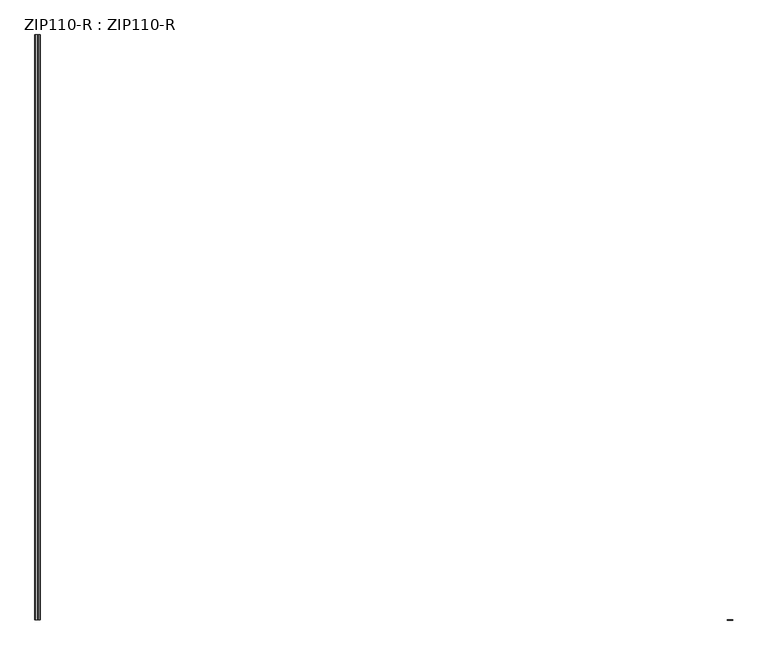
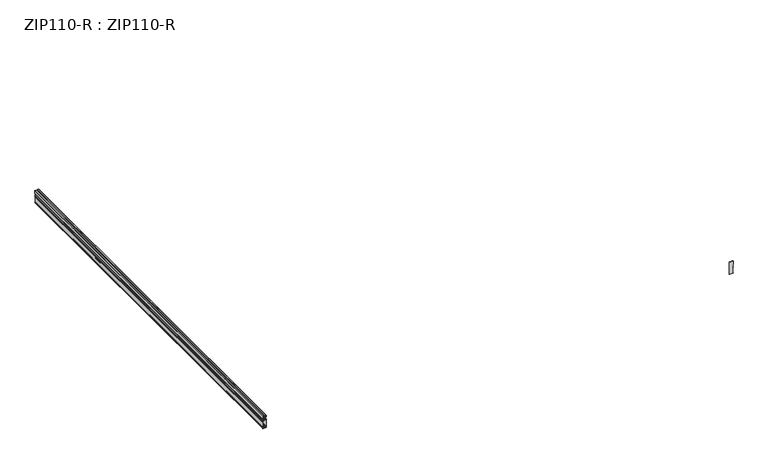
"""IFC4 building model written with IfcOpenShell, lengths in millimetres: proxy geometry, ZIP110-R : ZIP110-R."""

from ifc_helpers import new_model, si_unit, point, frame, frame_2d, origin, place, context, project, spatial, polyline, circle_curve, trimmed, segment, composite_curve, outline, extrude, source, transform, mapped, element, save
from ifc_brep_helpers import plane_surface, cylinder_surface, revolved_surface, advanced_brep


def zip110_r_zip110_r_a34fa557(model_context):
    return source(origin(), model_context, "Body", "SolidModel", [
        advanced_brep(
        [(-1980.5, 2.5, 110.0), (-1983.1683375, 2.5, 110.0), (-1984.5, 2.5, 110.0), (-1999.0, 2.5, 110.0), (-2000.0, 2.5, 109.0), (-2000.0, 2.5, 85.2133021), (-2000.0, 2.5, 81.4142136), (-1999.0, 2.5, 80.4142136), (-1999.0, 2.5, 64.25), (-2000.0, 2.5, 64.25), (-2000.0, 2.5, 62.9567252), (-1999.2, 2.5, 62.9567252), (-1999.2, 2.5, 60.138621), (-1999.2, 2.5, 57.0432748), (-2000.0, 2.5, 57.0432748), (-2000.0, 2.5, 55.75), (-1999.0, 2.5, 55.75), (-1999.0, 2.5, 3.0857864), (-2000.0, 2.5, 2.0857864), (-2000.0, 2.5, 1.0), (-1999.0, 2.5, 0.0), (-1969.0, 2.5, 0.0), (-1968.0, 2.5, 1.0), (-1968.0, 2.5, 2.0685346), (-1968.0, 2.5, 7.9507949), (-1968.0, 2.5, 77.4029385), (-1968.8263518, 2.5, 78.3877462), (-1974.0, 2.5, 79.3), (-1977.7081958, 2.5, 79.3), (-1977.7081958, 2.5, 78.1), (-1975.8326175, 2.5, 78.1), (-1973.5, 2.5, 77.6886966), (-1973.5, 2.5, 71.4), (-1990.4889527, 2.5, 71.4), (-1990.4889527, 2.5, 72.5), (-1992.9, 2.5, 72.5), (-1993.3030746, 2.5, 71.4555556), (-1989.2723286, 2.5, 69.9), (-1972.0, 2.5, 69.9), (-1972.0, 2.5, 76.8283293), (-1971.4131759, 2.5, 77.3207332), (-1969.5, 2.5, 76.9833887), (-1969.5, 2.5, 15.1289809), (-1971.6736482, 2.5, 14.7457081), (-1972.5, 2.5, 13.7609004), (-1972.5, 2.5, 11.919611), (-1972.1, 2.5, 11.1), (-1971.3, 2.5, 11.1), (-1971.3, 2.5, 12.8), (-1970.8, 2.5, 13.3), (-1969.5, 2.5, 13.3), (-1969.5, 2.5, 3.6555641), (-1971.7131759, 2.5, 3.2653215), (-1972.3, 2.5, 3.7577254), (-1972.3, 2.5, 5.2), (-1971.5658186, 2.5, 5.6417681), (-1971.5, 2.5, 6.7), (-1973.9101021, 2.5, 6.7), (-1975.860326, 2.5, 6.4606803), (-1976.8470631, 2.5, 6.5958375), (-1976.7905004, 2.5, 5.5974385), (-1975.178132, 2.5, 4.4938803), (-1976.1000964, 2.5, 2.5167213), (-1977.9818814, 2.5, 3.0425137), (-1978.7830573, 2.5, 2.4440847), (-1979.0685439, 2.5, 1.5), (-1997.0, 2.5, 1.5), (-1997.5, 2.5, 2.0), (-1997.5, 2.5, 5.2), (-1997.0, 2.5, 5.7), (-1986.6190958, 2.5, 5.7), (-1986.0648483, 2.5, 6.2542475), (-1987.0, 2.5, 6.9), (-1996.5, 2.5, 6.9), (-1997.5, 2.5, 7.9), (-1997.5, 2.5, 10.1), (-1996.5, 2.5, 11.1), (-1987.0, 2.5, 11.1), (-1986.2077069, 2.5, 11.4898593), (-1986.3071797, 2.5, 12.3), (-1997.0, 2.5, 12.3), (-1997.5, 2.5, 12.8), (-1997.5, 2.5, 58.0), (-1997.5, 2.5, 59.641696), (-1997.5, 2.5, 62.0), (-1997.5, 2.5, 70.6), (-1997.0, 2.5, 71.1), (-1995.9384776, 2.5, 71.1), (-1990.4788582, 2.5, 65.6403806), (-1989.5596194, 2.5, 66.5596194), (-1993.9535534, 2.5, 70.9535534), (-1994.0977166, 2.5, 71.7576425), (-1992.7954131, 2.5, 73.0270692), (-1990.2, 2.5, 72.8), (-1990.2, 2.5, 71.6), (-1989.2, 2.5, 71.6), (-1988.7, 2.5, 72.1), (-1988.7, 2.5, 84.75), (-1988.7, 2.5, 88.9474648), (-1988.7, 2.5, 93.25), (-1988.7, 2.5, 102.0), (-1988.2, 2.5, 102.5), (-1978.25, 2.5, 102.5), (-1974.0, 2.5, 102.5), (-1973.5, 2.5, 102.0), (-1973.5, 2.5, 96.3), (-1974.0, 2.5, 95.8), (-1977.4, 2.5, 95.8), (-1977.4, 2.5, 94.6), (-1969.0, 2.5, 94.6), (-1968.0, 2.5, 95.6), (-1968.0, 2.5, 109.0), (-1969.0, 2.5, 110.0), (-1980.5, 3355.0, 110.0), (-1969.0, 3355.0, 110.0), (-1968.0, 3355.0, 109.0), (-1968.0, 3355.0, 95.6), (-1969.0, 3355.0, 94.6), (-1977.4, 3355.0, 94.6), (-1977.4, 3355.0, 95.8), (-1974.0, 3355.0, 95.8), (-1973.5, 3355.0, 96.3), (-1973.5, 3355.0, 102.0), (-1974.0, 3355.0, 102.5), (-1978.25, 3355.0, 102.5), (-1988.2, 3355.0, 102.5), (-1988.7, 3355.0, 102.0), (-1988.7, 3355.0, 93.25), (-1988.7, 3355.0, 88.9474648), (-1988.7, 3355.0, 84.75), (-1988.7, 3355.0, 72.1), (-1989.2, 3355.0, 71.6), (-1990.2, 3355.0, 71.6), (-1990.2, 3355.0, 72.8), (-1992.7954131, 3355.0, 73.0270692), (-1994.0977166, 3355.0, 71.7576425), (-1993.9535534, 3355.0, 70.9535534), (-1989.5596194, 3355.0, 66.5596194), (-1990.4788582, 3355.0, 65.6403806), (-1995.9384776, 3355.0, 71.1), (-1997.0, 3355.0, 71.1), (-1997.5, 3355.0, 70.6), (-1997.5, 3355.0, 62.0), (-1997.5, 3355.0, 59.641696), (-1997.5, 3355.0, 58.0), (-1997.5, 3355.0, 12.8), (-1997.0, 3355.0, 12.3), (-1986.3071797, 3355.0, 12.3), (-1986.2077069, 3355.0, 11.4898593), (-1987.0, 3355.0, 11.1), (-1996.5, 3355.0, 11.1), (-1997.5, 3355.0, 10.1), (-1997.5, 3355.0, 7.9), (-1996.5, 3355.0, 6.9), (-1987.0, 3355.0, 6.9), (-1986.0648483, 3355.0, 6.2542475), (-1986.6190958, 3355.0, 5.7), (-1997.0, 3355.0, 5.7), (-1997.5, 3355.0, 5.2), (-1997.5, 3355.0, 2.0), (-1997.0, 3355.0, 1.5), (-1979.0685439, 3355.0, 1.5), (-1978.6865207, 3355.0, 2.3225806), (-1977.9818814, 3355.0, 3.0425137), (-1976.1000964, 3355.0, 2.5167213), (-1975.178132, 3355.0, 4.4938803), (-1976.7905004, 3355.0, 5.5974385), (-1976.8470631, 3355.0, 6.5958375), (-1975.860326, 3355.0, 6.4606803), (-1973.9101021, 3355.0, 6.7), (-1971.5, 3355.0, 6.7), (-1971.5658186, 3355.0, 5.6417681), (-1972.3, 3355.0, 5.2), (-1972.3, 3355.0, 3.7577254), (-1971.7131759, 3355.0, 3.2653215), (-1969.5, 3355.0, 3.6555641), (-1969.5, 3355.0, 13.3), (-1970.8, 3355.0, 13.3), (-1971.3, 3355.0, 12.8), (-1971.3, 3355.0, 11.1), (-1972.1, 3355.0, 11.1), (-1972.5, 3355.0, 11.919611), (-1972.5, 3355.0, 13.7609004), (-1971.6736482, 3355.0, 14.7457081), (-1969.5, 3355.0, 15.1289809), (-1969.5, 3355.0, 76.9833887), (-1971.4131759, 3355.0, 77.3207332), (-1972.0, 3355.0, 76.8283293), (-1972.0, 3355.0, 69.9), (-1989.2723286, 3355.0, 69.9), (-1993.3030746, 3355.0, 71.4555556), (-1992.9, 3355.0, 72.5), (-1990.4889527, 3355.0, 72.5), (-1990.4889527, 3355.0, 71.4), (-1973.5, 3355.0, 71.4), (-1973.5, 3355.0, 77.6886966), (-1975.8326175, 3355.0, 78.1), (-1977.7081958, 3355.0, 78.1), (-1977.7081958, 3355.0, 79.3), (-1974.0, 3355.0, 79.3), (-1968.8263518, 3355.0, 78.3877462), (-1968.0, 3355.0, 77.4029385), (-1968.0, 3355.0, 7.9507949), (-1968.0, 3355.0, 2.0685346), (-1968.0, 3355.0, 1.0), (-1969.0, 3355.0, 0.0), (-1999.0, 3355.0, 0.0), (-2000.0, 3355.0, 1.0), (-2000.0, 3355.0, 2.0857864), (-1999.0, 3355.0, 3.0857864), (-1999.0, 3355.0, 55.75), (-2000.0, 3355.0, 55.75), (-2000.0, 3355.0, 57.0432748), (-1999.2, 3355.0, 57.0432748), (-1999.2, 3355.0, 60.138621), (-1999.2, 3355.0, 62.9567252), (-2000.0, 3355.0, 62.9567252), (-2000.0, 3355.0, 64.25), (-1999.0, 3355.0, 64.25), (-1999.0, 3355.0, 80.4142136), (-2000.0, 3355.0, 81.4142136), (-2000.0, 3355.0, 85.2133021), (-2000.0, 3355.0, 109.0), (-1999.0, 3355.0, 110.0), (-1984.5, 3355.0, 110.0), (-1983.1683375, 3355.0, 110.0)],
        [
            (0, 1),
            (1, 2),
            (2, 3),
            (3, 4, circle_curve(frame((-1999.0, 2.5, 109.0), z_axis=(0.0, -1.0, 0.0), x_axis=(1.0, 0.0, 0.0)), 1.0)),
            (4, 5),
            (5, 6),
            (6, 7, circle_curve(frame((-1999.0, 2.5, 81.4142136), z_axis=(0.0, -1.0, 0.0), x_axis=(1.0, 0.0, 0.0)), 1.0)),
            (7, 8),
            (8, 9),
            (9, 10),
            (10, 11),
            (11, 12),
            (12, 13),
            (13, 14),
            (14, 15),
            (15, 16),
            (16, 17),
            (17, 18, circle_curve(frame((-1999.0, 2.5, 2.0857864), z_axis=(0.0, -1.0, 0.0), x_axis=(1.0, 0.0, 0.0)), 1.0)),
            (18, 19),
            (19, 20, circle_curve(frame((-1999.0, 2.5, 1.0), z_axis=(0.0, -1.0, 0.0), x_axis=(1.0, 0.0, 0.0)), 1.0)),
            (20, 21),
            (21, 22, circle_curve(frame((-1969.0, 2.5, 1.0), z_axis=(0.0, -1.0, 0.0), x_axis=(1.0, 0.0, 0.0)), 1.0)),
            (22, 23),
            (23, 24),
            (24, 25),
            (25, 26, circle_curve(frame((-1969.0, 2.5, 77.4029385), z_axis=(0.0, -1.0, 0.0), x_axis=(1.0, 0.0, 0.0)), 1.0)),
            (26, 27),
            (27, 28),
            (28, 29),
            (29, 30),
            (30, 31),
            (31, 32),
            (32, 33),
            (33, 34),
            (34, 35),
            (35, 36, circle_curve(frame((-1992.9, 2.5, 71.9), z_axis=(0.0, -1.0, 0.0), x_axis=(1.0, 0.0, 0.0)), 0.6)),
            (36, 37, circle_curve(frame((-1989.2723286, 2.5, 75.9), z_axis=(0.0, -1.0, 0.0), x_axis=(1.0, 0.0, 0.0)), 6.0)),
            (37, 38),
            (38, 39),
            (39, 40, circle_curve(frame((-1971.5, 2.5, 76.8283293), z_axis=(0.0, 1.0, 0.0), x_axis=(1.0, 0.0, 0.0)), 0.5)),
            (40, 41),
            (41, 42),
            (42, 43),
            (43, 44, circle_curve(frame((-1971.5, 2.5, 13.7609004), z_axis=(0.0, -1.0, 0.0), x_axis=(1.0, 0.0, 0.0)), 1.0)),
            (44, 45),
            (45, 46, circle_curve(frame((-1971.8859152, 2.5, 11.711894), z_axis=(0.0, -1.0, 0.0), x_axis=(1.0, 0.0, 0.0)), 0.6482642)),
            (46, 47),
            (47, 48),
            (48, 49, circle_curve(frame((-1970.8, 2.5, 12.8), z_axis=(0.0, 1.0, 0.0), x_axis=(1.0, 0.0, 0.0)), 0.5)),
            (49, 50),
            (50, 51),
            (51, 52),
            (52, 53, circle_curve(frame((-1971.8, 2.5, 3.7577254), z_axis=(0.0, 1.0, 0.0), x_axis=(1.0, 0.0, 0.0)), 0.5)),
            (53, 54),
            (54, 55, circle_curve(frame((-1971.8, 2.5, 5.2), z_axis=(0.0, 1.0, 0.0), x_axis=(1.0, 0.0, 0.0)), 0.5)),
            (55, 56, circle_curve(frame((-1971.8975235, 2.5, 6.1935619), z_axis=(0.0, -1.0, 0.0), x_axis=(1.0, 0.0, 0.0)), 0.6438202)),
            (56, 57),
            (57, 58),
            (58, 59, circle_curve(frame((-1976.7, 2.5, 4.0), z_axis=(0.0, -1.0, 0.0), x_axis=(1.0, 0.0, 0.0)), 2.6)),
            (59, 60, circle_curve(frame((-1976.8187818, 2.5, 6.096638), z_axis=(0.0, -1.0, 0.0), x_axis=(1.0, 0.0, 0.0)), 0.5)),
            (60, 61, circle_curve(frame((-1976.7, 2.5, 4.0), z_axis=(0.0, 1.0, 0.0), x_axis=(1.0, 0.0, 0.0)), 1.6)),
            (61, 62, circle_curve(frame((-1975.9692715, 2.5, 3.6592557), z_axis=(0.0, 1.0, 0.0), x_axis=(1.0, 0.0, 0.0)), 1.15)),
            (62, 63, circle_curve(frame((-1976.7, 2.5, 4.0), z_axis=(0.0, 1.0, 0.0), x_axis=(1.0, 0.0, 0.0)), 1.6)),
            (63, 64, circle_curve(frame((-1978.3824693, 2.5, 2.7432992), z_axis=(0.0, -1.0, 0.0), x_axis=(1.0, 0.0, 0.0)), 0.5)),
            (64, 65, circle_curve(frame((-1979.0685439, 2.5, 2.0), z_axis=(0.0, 1.0, 0.0), x_axis=(1.0, 0.0, 0.0)), 0.5)),
            (65, 66),
            (66, 67, circle_curve(frame((-1997.0, 2.5, 2.0), z_axis=(0.0, 1.0, 0.0), x_axis=(1.0, 0.0, 0.0)), 0.5)),
            (67, 68),
            (68, 69, circle_curve(frame((-1997.0, 2.5, 5.2), z_axis=(0.0, 1.0, 0.0), x_axis=(1.0, 0.0, 0.0)), 0.5)),
            (69, 70),
            (70, 71, circle_curve(frame((-1986.469736, 2.5, 6.1048877), z_axis=(0.0, -1.0, 0.0), x_axis=(1.0, 0.0, 0.0)), 0.4315581)),
            (71, 72, circle_curve(frame((-1987.0, 2.5, 5.9), z_axis=(0.0, -1.0, 0.0), x_axis=(1.0, 0.0, 0.0)), 1.0)),
            (72, 73),
            (73, 74, circle_curve(frame((-1996.5, 2.5, 7.9), z_axis=(0.0, 1.0, 0.0), x_axis=(1.0, 0.0, 0.0)), 1.0)),
            (74, 75),
            (75, 76, circle_curve(frame((-1996.5, 2.5, 10.1), z_axis=(0.0, 1.0, 0.0), x_axis=(1.0, 0.0, 0.0)), 1.0)),
            (76, 77),
            (77, 78, circle_curve(frame((-1987.0, 2.5, 12.1), z_axis=(0.0, -1.0, 0.0), x_axis=(1.0, 0.0, 0.0)), 1.0)),
            (78, 79, circle_curve(frame((-1986.4663238, 2.5, 11.8692824), z_axis=(0.0, -1.0, 0.0), x_axis=(1.0, 0.0, 0.0)), 0.4591781)),
            (79, 80),
            (80, 81, circle_curve(frame((-1997.0, 2.5, 12.8), z_axis=(0.0, 1.0, 0.0), x_axis=(1.0, 0.0, 0.0)), 0.5)),
            (81, 82),
            (82, 83),
            (83, 84),
            (84, 85),
            (85, 86, circle_curve(frame((-1997.0, 2.5, 70.6), z_axis=(0.0, 1.0, 0.0), x_axis=(1.0, 0.0, 0.0)), 0.5)),
            (86, 87),
            (87, 88),
            (88, 89, circle_curve(frame((-1990.0192388, 2.5, 66.1), z_axis=(0.0, -1.0, 0.0), x_axis=(1.0, 0.0, 0.0)), 0.65)),
            (89, 90),
            (90, 91, circle_curve(frame((-1993.4479343, 2.5, 71.4591725), z_axis=(0.0, 1.0, 0.0), x_axis=(1.0, 0.0, 0.0)), 0.7150534)),
            (91, 92, circle_curve(frame((-1992.9, 2.5, 71.8316356), z_axis=(0.0, 1.0, 0.0), x_axis=(1.0, 0.0, 0.0)), 1.2)),
            (92, 93),
            (93, 94),
            (94, 95),
            (95, 96, circle_curve(frame((-1989.2, 2.5, 72.1), z_axis=(0.0, -1.0, 0.0), x_axis=(1.0, 0.0, 0.0)), 0.5)),
            (96, 97),
            (97, 98),
            (98, 99),
            (99, 100),
            (100, 101, circle_curve(frame((-1988.2, 2.5, 102.0), z_axis=(0.0, 1.0, 0.0), x_axis=(1.0, 0.0, 0.0)), 0.5)),
            (101, 102),
            (102, 103),
            (103, 104, circle_curve(frame((-1974.0, 2.5, 102.0), z_axis=(0.0, 1.0, 0.0), x_axis=(1.0, 0.0, 0.0)), 0.5)),
            (104, 105),
            (105, 106, circle_curve(frame((-1974.0, 2.5, 96.3), z_axis=(0.0, 1.0, 0.0), x_axis=(1.0, 0.0, 0.0)), 0.5)),
            (106, 107),
            (107, 108, circle_curve(frame((-1976.826947, 2.5, 95.2), z_axis=(0.0, -1.0, 0.0), x_axis=(1.0, 0.0, 0.0)), 0.8296925)),
            (108, 109),
            (109, 110, circle_curve(frame((-1969.0, 2.5, 95.6), z_axis=(0.0, -1.0, 0.0), x_axis=(1.0, 0.0, 0.0)), 1.0)),
            (110, 111),
            (111, 112, circle_curve(frame((-1969.0, 2.5, 109.0), z_axis=(0.0, -1.0, 0.0), x_axis=(1.0, 0.0, 0.0)), 1.0)),
            (112, 0),
            (113, 114),
            (114, 115, circle_curve(frame((-1969.0, 3355.0, 109.0), z_axis=(0.0, 1.0, 0.0), x_axis=(1.0, 0.0, 0.0)), 1.0)),
            (115, 116),
            (116, 117, circle_curve(frame((-1969.0, 3355.0, 95.6), z_axis=(0.0, 1.0, 0.0), x_axis=(1.0, 0.0, 0.0)), 1.0)),
            (117, 118),
            (118, 119, circle_curve(frame((-1976.826947, 3355.0, 95.2), z_axis=(0.0, 1.0, 0.0), x_axis=(1.0, 0.0, 0.0)), 0.8296925)),
            (119, 120),
            (120, 121, circle_curve(frame((-1974.0, 3355.0, 96.3), z_axis=(0.0, -1.0, 0.0), x_axis=(1.0, 0.0, 0.0)), 0.5)),
            (121, 122),
            (122, 123, circle_curve(frame((-1974.0, 3355.0, 102.0), z_axis=(0.0, -1.0, 0.0), x_axis=(1.0, 0.0, 0.0)), 0.5)),
            (123, 124),
            (124, 125),
            (125, 126, circle_curve(frame((-1988.2, 3355.0, 102.0), z_axis=(0.0, -1.0, 0.0), x_axis=(1.0, 0.0, 0.0)), 0.5)),
            (126, 127),
            (127, 128),
            (128, 129),
            (129, 130),
            (130, 131, circle_curve(frame((-1989.2, 3355.0, 72.1), z_axis=(0.0, 1.0, 0.0), x_axis=(1.0, 0.0, 0.0)), 0.5)),
            (131, 132),
            (132, 133),
            (133, 134),
            (134, 135, circle_curve(frame((-1992.9, 3355.0, 71.8316356), z_axis=(0.0, -1.0, 0.0), x_axis=(1.0, 0.0, 0.0)), 1.2)),
            (135, 136, circle_curve(frame((-1993.4479343, 3355.0, 71.4591725), z_axis=(0.0, -1.0, 0.0), x_axis=(1.0, 0.0, 0.0)), 0.7150534)),
            (136, 137),
            (137, 138, circle_curve(frame((-1990.0192388, 3355.0, 66.1), z_axis=(0.0, 1.0, 0.0), x_axis=(1.0, 0.0, 0.0)), 0.65)),
            (138, 139),
            (139, 140),
            (140, 141, circle_curve(frame((-1997.0, 3355.0, 70.6), z_axis=(0.0, -1.0, 0.0), x_axis=(1.0, 0.0, 0.0)), 0.5)),
            (141, 142),
            (142, 143),
            (143, 144),
            (144, 145),
            (145, 146, circle_curve(frame((-1997.0, 3355.0, 12.8), z_axis=(0.0, -1.0, 0.0), x_axis=(1.0, 0.0, 0.0)), 0.5)),
            (146, 147),
            (147, 148, circle_curve(frame((-1986.4663238, 3355.0, 11.8692824), z_axis=(0.0, 1.0, 0.0), x_axis=(1.0, 0.0, 0.0)), 0.4591781)),
            (148, 149, circle_curve(frame((-1987.0, 3355.0, 12.1), z_axis=(0.0, 1.0, 0.0), x_axis=(1.0, 0.0, 0.0)), 1.0)),
            (149, 150),
            (150, 151, circle_curve(frame((-1996.5, 3355.0, 10.1), z_axis=(0.0, -1.0, 0.0), x_axis=(1.0, 0.0, 0.0)), 1.0)),
            (151, 152),
            (152, 153, circle_curve(frame((-1996.5, 3355.0, 7.9), z_axis=(0.0, -1.0, 0.0), x_axis=(1.0, 0.0, 0.0)), 1.0)),
            (153, 154),
            (154, 155, circle_curve(frame((-1987.0, 3355.0, 5.9), z_axis=(0.0, 1.0, 0.0), x_axis=(1.0, 0.0, 0.0)), 1.0)),
            (155, 156, circle_curve(frame((-1986.469736, 3355.0, 6.1048877), z_axis=(0.0, 1.0, 0.0), x_axis=(1.0, 0.0, 0.0)), 0.4315581)),
            (156, 157),
            (157, 158, circle_curve(frame((-1997.0, 3355.0, 5.2), z_axis=(0.0, -1.0, 0.0), x_axis=(1.0, 0.0, 0.0)), 0.5)),
            (158, 159),
            (159, 160, circle_curve(frame((-1997.0, 3355.0, 2.0), z_axis=(0.0, -1.0, 0.0), x_axis=(1.0, 0.0, 0.0)), 0.5)),
            (160, 161),
            (161, 162, circle_curve(frame((-1979.0685439, 3355.0, 2.0), z_axis=(0.0, -1.0, 0.0), x_axis=(1.0, 0.0, 0.0)), 0.5)),
            (162, 163, circle_curve(frame((-1978.3824693, 3355.0, 2.7432992), z_axis=(0.0, 1.0, 0.0), x_axis=(1.0, 0.0, 0.0)), 0.5)),
            (163, 164, circle_curve(frame((-1976.7, 3355.0, 4.0), z_axis=(0.0, -1.0, 0.0), x_axis=(1.0, 0.0, 0.0)), 1.6)),
            (164, 165, circle_curve(frame((-1975.9692715, 3355.0, 3.6592557), z_axis=(0.0, -1.0, 0.0), x_axis=(1.0, 0.0, 0.0)), 1.15)),
            (165, 166, circle_curve(frame((-1976.7, 3355.0, 4.0), z_axis=(0.0, -1.0, 0.0), x_axis=(1.0, 0.0, 0.0)), 1.6)),
            (166, 167, circle_curve(frame((-1976.8187818, 3355.0, 6.096638), z_axis=(0.0, 1.0, 0.0), x_axis=(1.0, 0.0, 0.0)), 0.5)),
            (167, 168, circle_curve(frame((-1976.7, 3355.0, 4.0), z_axis=(0.0, 1.0, 0.0), x_axis=(1.0, 0.0, 0.0)), 2.6)),
            (168, 169),
            (169, 170),
            (170, 171, circle_curve(frame((-1971.8975235, 3355.0, 6.1935619), z_axis=(0.0, 1.0, 0.0), x_axis=(1.0, 0.0, 0.0)), 0.6438202)),
            (171, 172, circle_curve(frame((-1971.8, 3355.0, 5.2), z_axis=(0.0, -1.0, 0.0), x_axis=(1.0, 0.0, 0.0)), 0.5)),
            (172, 173),
            (173, 174, circle_curve(frame((-1971.8, 3355.0, 3.7577254), z_axis=(0.0, -1.0, 0.0), x_axis=(1.0, 0.0, 0.0)), 0.5)),
            (174, 175),
            (175, 176),
            (176, 177),
            (177, 178, circle_curve(frame((-1970.8, 3355.0, 12.8), z_axis=(0.0, -1.0, 0.0), x_axis=(1.0, 0.0, 0.0)), 0.5)),
            (178, 179),
            (179, 180),
            (180, 181, circle_curve(frame((-1971.8859152, 3355.0, 11.711894), z_axis=(0.0, 1.0, 0.0), x_axis=(1.0, 0.0, 0.0)), 0.6482642)),
            (181, 182),
            (182, 183, circle_curve(frame((-1971.5, 3355.0, 13.7609004), z_axis=(0.0, 1.0, 0.0), x_axis=(1.0, 0.0, 0.0)), 1.0)),
            (183, 184),
            (184, 185),
            (185, 186),
            (186, 187, circle_curve(frame((-1971.5, 3355.0, 76.8283293), z_axis=(0.0, -1.0, 0.0), x_axis=(1.0, 0.0, 0.0)), 0.5)),
            (187, 188),
            (188, 189),
            (189, 190, circle_curve(frame((-1989.2723286, 3355.0, 75.9), z_axis=(0.0, 1.0, 0.0), x_axis=(1.0, 0.0, 0.0)), 6.0)),
            (190, 191, circle_curve(frame((-1992.9, 3355.0, 71.9), z_axis=(0.0, 1.0, 0.0), x_axis=(1.0, 0.0, 0.0)), 0.6)),
            (191, 192),
            (192, 193),
            (193, 194),
            (194, 195),
            (195, 196),
            (196, 197),
            (197, 198),
            (198, 199),
            (199, 200),
            (200, 201, circle_curve(frame((-1969.0, 3355.0, 77.4029385), z_axis=(0.0, 1.0, 0.0), x_axis=(1.0, 0.0, 0.0)), 1.0)),
            (201, 202),
            (202, 203),
            (203, 204),
            (204, 205, circle_curve(frame((-1969.0, 3355.0, 1.0), z_axis=(0.0, 1.0, 0.0), x_axis=(1.0, 0.0, 0.0)), 1.0)),
            (205, 206),
            (206, 207, circle_curve(frame((-1999.0, 3355.0, 1.0), z_axis=(0.0, 1.0, 0.0), x_axis=(1.0, 0.0, 0.0)), 1.0)),
            (207, 208),
            (208, 209, circle_curve(frame((-1999.0, 3355.0, 2.0857864), z_axis=(0.0, 1.0, 0.0), x_axis=(1.0, 0.0, 0.0)), 1.0)),
            (209, 210),
            (210, 211),
            (211, 212),
            (212, 213),
            (213, 214),
            (214, 215),
            (215, 216),
            (216, 217),
            (217, 218),
            (218, 219),
            (219, 220, circle_curve(frame((-1999.0, 3355.0, 81.4142136), z_axis=(0.0, 1.0, 0.0), x_axis=(1.0, 0.0, 0.0)), 1.0)),
            (220, 221),
            (221, 222),
            (222, 223, circle_curve(frame((-1999.0, 3355.0, 109.0), z_axis=(0.0, 1.0, 0.0), x_axis=(1.0, 0.0, 0.0)), 1.0)),
            (223, 224),
            (224, 225),
            (225, 113),
            (0, 113),
            (225, 1),
            (224, 2),
            (223, 3),
            (222, 4),
            (221, 5),
            (220, 6),
            (219, 7),
            (218, 8),
            (217, 9),
            (216, 10),
            (215, 11),
            (214, 12),
            (213, 13),
            (212, 14),
            (211, 15),
            (210, 16),
            (209, 17),
            (208, 18),
            (207, 19),
            (206, 20),
            (205, 21),
            (204, 22),
            (203, 23),
            (202, 24),
            (201, 25),
            (200, 26),
            (199, 27),
            (198, 28),
            (197, 29),
            (196, 30),
            (195, 31),
            (194, 32),
            (193, 33),
            (192, 34),
            (191, 35),
            (190, 36),
            (189, 37),
            (188, 38),
            (187, 39),
            (186, 40),
            (185, 41),
            (184, 42),
            (183, 43),
            (182, 44),
            (181, 45),
            (180, 46),
            (179, 47),
            (178, 48),
            (177, 49),
            (176, 50),
            (175, 51),
            (174, 52),
            (173, 53),
            (172, 54),
            (171, 55),
            (170, 56),
            (169, 57),
            (168, 58),
            (167, 59),
            (166, 60),
            (165, 61),
            (164, 62),
            (163, 63),
            (162, 64),
            (161, 65),
            (160, 66),
            (159, 67),
            (158, 68),
            (157, 69),
            (156, 70),
            (155, 71),
            (154, 72),
            (153, 73),
            (152, 74),
            (151, 75),
            (150, 76),
            (149, 77),
            (148, 78),
            (147, 79),
            (146, 80),
            (145, 81),
            (144, 82),
            (143, 83),
            (142, 84),
            (141, 85),
            (140, 86),
            (139, 87),
            (138, 88),
            (137, 89),
            (136, 90),
            (135, 91),
            (134, 92),
            (133, 93),
            (132, 94),
            (131, 95),
            (130, 96),
            (129, 97),
            (128, 98),
            (127, 99),
            (126, 100),
            (125, 101),
            (124, 102),
            (123, 103),
            (122, 104),
            (121, 105),
            (120, 106),
            (119, 107),
            (118, 108),
            (117, 109),
            (116, 110),
            (115, 111),
            (114, 112),
        ],
        [
            plane_surface(frame((-1981.836675, 2.5, 110.0), z_axis=(0.0, -1.0, 0.0), x_axis=(-1.0, 0.0, 0.0))),
            plane_surface(frame((-1981.836675, 3355.0, 110.0), z_axis=(0.0, 1.0, 0.0), x_axis=(1.0, 0.0, 0.0))),
            plane_surface(frame((-1980.5, 2.5, 110.0), z_axis=(0.0, 0.0, 1.0), x_axis=(0.0, 1.0, 0.0))),
            plane_surface(frame((-1983.1683375, 2.5, 110.0), z_axis=(0.0, 0.0, 1.0), x_axis=(0.0, 1.0, 0.0))),
            plane_surface(frame((-1984.5, 2.5, 110.0), z_axis=(0.0, 0.0, 1.0), x_axis=(0.0, 1.0, 0.0))),
            cylinder_surface(frame((-1999.0, 3355.0, 109.0), z_axis=(0.0, -1.0, 0.0), x_axis=(1.0, 0.0, 0.0)), 1.0),
            plane_surface(frame((-2000.0, 2.5, 109.0), z_axis=(-1.0, 0.0, 0.0), x_axis=(0.0, 1.0, 0.0))),
            plane_surface(frame((-2000.0, 2.5, 85.2133021), z_axis=(-1.0, 0.0, 0.0), x_axis=(0.0, 1.0, 0.0))),
            cylinder_surface(frame((-1999.0, 3355.0, 81.4142136), z_axis=(0.0, -1.0, 0.0), x_axis=(1.0, 0.0, 0.0)), 1.0),
            plane_surface(frame((-1999.0, 2.5, 80.4142136), z_axis=(-1.0, 0.0, 0.0), x_axis=(0.0, 1.0, 0.0))),
            plane_surface(frame((-1999.0, 2.5, 64.25), z_axis=(0.0, 0.0, 1.0), x_axis=(0.0, 1.0, 0.0))),
            plane_surface(frame((-2000.0, 2.5, 64.25), z_axis=(-1.0, 0.0, 0.0), x_axis=(0.0, 1.0, 0.0))),
            plane_surface(frame((-2000.0, 2.5, 62.9567252), z_axis=(0.0, 0.0, -1.0), x_axis=(0.0, 1.0, 0.0))),
            plane_surface(frame((-1999.2, 2.5, 62.9567252), z_axis=(-1.0, 0.0, 0.0), x_axis=(0.0, 1.0, 0.0))),
            plane_surface(frame((-1999.2, 2.5, 60.138621), z_axis=(-1.0, 0.0, 0.0), x_axis=(0.0, 1.0, 0.0))),
            plane_surface(frame((-1999.2, 2.5, 57.0432748), z_axis=(0.0, 0.0, 1.0), x_axis=(0.0, 1.0, 0.0))),
            plane_surface(frame((-2000.0, 2.5, 57.0432748), z_axis=(-1.0, 0.0, 0.0), x_axis=(0.0, 1.0, 0.0))),
            plane_surface(frame((-2000.0, 2.5, 55.75), z_axis=(0.0, 0.0, -1.0), x_axis=(0.0, 1.0, 0.0))),
            plane_surface(frame((-1999.0, 2.5, 55.75), z_axis=(-1.0, 0.0, 0.0), x_axis=(0.0, 1.0, 0.0))),
            cylinder_surface(frame((-1999.0, 3355.0, 2.0857864), z_axis=(0.0, -1.0, 0.0), x_axis=(1.0, 0.0, 0.0)), 1.0),
            plane_surface(frame((-2000.0, 2.5, 2.0857864), z_axis=(-1.0, 0.0, 0.0), x_axis=(0.0, 1.0, 0.0))),
            cylinder_surface(frame((-1999.0, 3355.0, 1.0), z_axis=(0.0, -1.0, 0.0), x_axis=(1.0, 0.0, 0.0)), 1.0),
            plane_surface(frame((-1999.0, 2.5, 0.0), z_axis=(0.0, 0.0, -1.0), x_axis=(0.0, 1.0, 0.0))),
            cylinder_surface(frame((-1969.0, 3355.0, 1.0), z_axis=(0.0, -1.0, 0.0), x_axis=(1.0, 0.0, 0.0)), 1.0),
            plane_surface(frame((-1968.0, 2.5, 1.0), z_axis=(1.0, 0.0, 0.0), x_axis=(0.0, 1.0, 0.0))),
            plane_surface(frame((-1968.0, 2.5, 2.0685346), z_axis=(1.0, 0.0, 0.0), x_axis=(0.0, 1.0, 0.0))),
            plane_surface(frame((-1968.0, 2.5, 7.9507949), z_axis=(1.0, 0.0, 0.0), x_axis=(0.0, 1.0, 0.0))),
            cylinder_surface(frame((-1969.0, 3355.0, 77.4029385), z_axis=(0.0, -1.0, 0.0), x_axis=(1.0, 0.0, 0.0)), 1.0),
            plane_surface(frame((-1968.8263518, 2.5, 78.3877462), z_axis=(0.17364817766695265, 0.0, 0.9848077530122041), x_axis=(0.0, 1.0, 0.0))),
            plane_surface(frame((-1974.0, 2.5, 79.3), z_axis=(0.0, 0.0, 1.0), x_axis=(0.0, 1.0, 0.0))),
            plane_surface(frame((-1977.7081958, 2.5, 79.3), z_axis=(-1.0, 0.0, 0.0), x_axis=(0.0, 1.0, 0.0))),
            plane_surface(frame((-1977.7081958, 2.5, 78.1), z_axis=(0.0, 0.0, -1.0), x_axis=(0.0, 1.0, 0.0))),
            plane_surface(frame((-1975.8326175, 2.5, 78.1), z_axis=(-0.17364817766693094, 0.0, -0.984807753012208), x_axis=(0.0, 1.0, 0.0))),
            plane_surface(frame((-1973.5, 2.5, 77.6886966), z_axis=(-1.0, 0.0, 0.0), x_axis=(0.0, 1.0, 0.0))),
            plane_surface(frame((-1973.5, 2.5, 71.4), z_axis=(0.0, 0.0, 1.0), x_axis=(0.0, 1.0, 0.0))),
            plane_surface(frame((-1990.4889527, 2.5, 71.4), z_axis=(1.0, 0.0, 0.0), x_axis=(0.0, 1.0, 0.0))),
            plane_surface(frame((-1990.4889527, 2.5, 72.5), z_axis=(0.0, 0.0, 1.0), x_axis=(0.0, 1.0, 0.0))),
            cylinder_surface(frame((-1992.9, 3355.0, 71.9), z_axis=(0.0, -1.0, 0.0), x_axis=(1.0, 0.0, 0.0)), 0.6),
            cylinder_surface(frame((-1989.2723286, 3355.0, 75.9), z_axis=(0.0, -1.0, 0.0), x_axis=(1.0, 0.0, 0.0)), 6.0),
            plane_surface(frame((-1989.2723286, 2.5, 69.9), z_axis=(0.0, 0.0, -1.0), x_axis=(0.0, 1.0, 0.0))),
            plane_surface(frame((-1972.0, 2.5, 69.9), z_axis=(1.0, 0.0, 0.0), x_axis=(0.0, 1.0, 0.0))),
            revolved_surface(polyline([(-1971.0, 3355.0, 76.8283293), (-1971.0, 2.5, 76.8283293)]), (-1971.5, 3355.0, 76.8283293), (0.0, 1.0, 0.0)),
            plane_surface(frame((-1971.4131759, 2.5, 77.3207332), z_axis=(-0.1736481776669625, 0.0, -0.9848077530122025), x_axis=(0.0, 1.0, 0.0))),
            plane_surface(frame((-1969.5, 2.5, 76.9833887), z_axis=(-1.0, 0.0, 0.0), x_axis=(0.0, 1.0, 0.0))),
            plane_surface(frame((-1969.5, 2.5, 15.1289809), z_axis=(-0.1736481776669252, 0.0, 0.984807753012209), x_axis=(0.0, 1.0, 0.0))),
            cylinder_surface(frame((-1971.5, 3355.0, 13.7609004), z_axis=(0.0, -1.0, 0.0), x_axis=(1.0, 0.0, 0.0)), 1.0),
            plane_surface(frame((-1972.5, 2.5, 13.7609004), z_axis=(-1.0, 0.0, 0.0), x_axis=(0.0, 1.0, 0.0))),
            cylinder_surface(frame((-1971.8859152, 3355.0, 11.711894), z_axis=(0.0, -1.0, 0.0), x_axis=(1.0, 0.0, 0.0)), 0.6482642),
            plane_surface(frame((-1972.1, 2.5, 11.1), z_axis=(0.0, 0.0, -1.0), x_axis=(0.0, 1.0, 0.0))),
            plane_surface(frame((-1971.3, 2.5, 11.1), z_axis=(1.0, 0.0, 0.0), x_axis=(0.0, 1.0, 0.0))),
            revolved_surface(polyline([(-1970.3, 3355.0, 12.8), (-1970.3, 2.5, 12.8)]), (-1970.8, 3355.0, 12.8), (0.0, 1.0, 0.0)),
            plane_surface(frame((-1970.8, 2.5, 13.3), z_axis=(0.0, 0.0, -1.0), x_axis=(0.0, 1.0, 0.0))),
            plane_surface(frame((-1969.5, 2.5, 13.3), z_axis=(-1.0, 0.0, 0.0), x_axis=(0.0, 1.0, 0.0))),
            plane_surface(frame((-1969.5, 2.5, 3.6555641), z_axis=(-0.17364817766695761, 0.0, 0.9848077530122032), x_axis=(0.0, 1.0, 0.0))),
            revolved_surface(polyline([(-1971.3, 3355.0, 3.7577254), (-1971.3, 2.5, 3.7577254)]), (-1971.8, 3355.0, 3.7577254), (0.0, 1.0, 0.0)),
            plane_surface(frame((-1972.3, 2.5, 3.7577254), z_axis=(1.0, 0.0, 0.0), x_axis=(0.0, 1.0, 0.0))),
            revolved_surface(polyline([(-1971.3, 3355.0, 5.2), (-1971.3, 2.5, 5.2)]), (-1971.8, 3355.0, 5.2), (0.0, 1.0, 0.0)),
            cylinder_surface(frame((-1971.8975235, 3355.0, 6.1935619), z_axis=(0.0, -1.0, 0.0), x_axis=(1.0, 0.0, 0.0)), 0.6438202),
            plane_surface(frame((-1971.5, 2.5, 6.7), z_axis=(0.0, 0.0, 1.0), x_axis=(0.0, 1.0, 0.0))),
            plane_surface(frame((-1973.9101021, 2.5, 6.7), z_axis=(-0.12180029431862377, 0.0, 0.9925546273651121), x_axis=(0.0, 1.0, 0.0))),
            cylinder_surface(frame((-1976.7, 3355.0, 4.0), z_axis=(0.0, -1.0, 0.0), x_axis=(1.0, 0.0, 0.0)), 2.6),
            cylinder_surface(frame((-1976.8187818, 3355.0, 6.096638), z_axis=(0.0, -1.0, 0.0), x_axis=(1.0, 0.0, 0.0)), 0.5),
            revolved_surface(polyline([(-1975.1000000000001, 3355.0, 4.0), (-1975.1000000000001, 2.5, 4.0)]), (-1976.7, 3355.0, 4.0), (0.0, 1.0, 0.0)),
            revolved_surface(polyline([(-1974.8192715, 3355.0, 3.6592557), (-1974.8192715, 2.5, 3.6592557)]), (-1975.9692715, 3355.0, 3.6592557), (0.0, 1.0, 0.0)),
            cylinder_surface(frame((-1978.3824693, 3355.0, 2.7432992), z_axis=(0.0, -1.0, 0.0), x_axis=(1.0, 0.0, 0.0)), 0.5),
            revolved_surface(polyline([(-1978.5685439, 3355.0, 2.0), (-1978.5685439, 2.5, 2.0)]), (-1979.0685439, 3355.0, 2.0), (0.0, 1.0, 0.0)),
            plane_surface(frame((-1979.0685439, 2.5, 1.5), z_axis=(0.0, 0.0, 1.0), x_axis=(0.0, 1.0, 0.0))),
            revolved_surface(polyline([(-1996.5, 3355.0, 2.0), (-1996.5, 2.5, 2.0)]), (-1997.0, 3355.0, 2.0), (0.0, 1.0, 0.0)),
            plane_surface(frame((-1997.5, 2.5, 2.0), z_axis=(1.0, 0.0, 0.0), x_axis=(0.0, 1.0, 0.0))),
            revolved_surface(polyline([(-1996.5, 3355.0, 5.2), (-1996.5, 2.5, 5.2)]), (-1997.0, 3355.0, 5.2), (0.0, 1.0, 0.0)),
            plane_surface(frame((-1997.0, 2.5, 5.7), z_axis=(0.0, 0.0, -1.0), x_axis=(0.0, 1.0, 0.0))),
            cylinder_surface(frame((-1986.469736, 3355.0, 6.1048877), z_axis=(0.0, -1.0, 0.0), x_axis=(1.0, 0.0, 0.0)), 0.4315581),
            cylinder_surface(frame((-1987.0, 3355.0, 5.9), z_axis=(0.0, -1.0, 0.0), x_axis=(1.0, 0.0, 0.0)), 1.0),
            plane_surface(frame((-1987.0, 2.5, 6.9), z_axis=(0.0, 0.0, 1.0), x_axis=(0.0, 1.0, 0.0))),
            revolved_surface(polyline([(-1995.5, 3355.0, 7.9), (-1995.5, 2.5, 7.9)]), (-1996.5, 3355.0, 7.9), (0.0, 1.0, 0.0)),
            plane_surface(frame((-1997.5, 2.5, 7.9), z_axis=(1.0, 0.0, 0.0), x_axis=(0.0, 1.0, 0.0))),
            revolved_surface(polyline([(-1995.5, 3355.0, 10.1), (-1995.5, 2.5, 10.1)]), (-1996.5, 3355.0, 10.1), (0.0, 1.0, 0.0)),
            plane_surface(frame((-1996.5, 2.5, 11.1), z_axis=(0.0, 0.0, -1.0), x_axis=(0.0, 1.0, 0.0))),
            cylinder_surface(frame((-1987.0, 3355.0, 12.1), z_axis=(0.0, -1.0, 0.0), x_axis=(1.0, 0.0, 0.0)), 1.0),
            cylinder_surface(frame((-1986.4663238, 3355.0, 11.8692824), z_axis=(0.0, -1.0, 0.0), x_axis=(1.0, 0.0, 0.0)), 0.4591781),
            plane_surface(frame((-1986.3071797, 2.5, 12.3), z_axis=(0.0, 0.0, 1.0), x_axis=(0.0, 1.0, 0.0))),
            revolved_surface(polyline([(-1996.5, 3355.0, 12.8), (-1996.5, 2.5, 12.8)]), (-1997.0, 3355.0, 12.8), (0.0, 1.0, 0.0)),
            plane_surface(frame((-1997.5, 2.5, 12.8), z_axis=(1.0, 0.0, 0.0), x_axis=(0.0, 1.0, 0.0))),
            plane_surface(frame((-1997.5, 2.5, 58.0), z_axis=(1.0, 0.0, 0.0), x_axis=(0.0, 1.0, 0.0))),
            plane_surface(frame((-1997.5, 2.5, 59.641696), z_axis=(1.0, 0.0, 0.0), x_axis=(0.0, 1.0, 0.0))),
            plane_surface(frame((-1997.5, 2.5, 62.0), z_axis=(1.0, 0.0, 0.0), x_axis=(0.0, 1.0, 0.0))),
            revolved_surface(polyline([(-1996.5, 3355.0, 70.6), (-1996.5, 2.5, 70.6)]), (-1997.0, 3355.0, 70.6), (0.0, 1.0, 0.0)),
            plane_surface(frame((-1997.0, 2.5, 71.1), z_axis=(0.0, 0.0, -1.0), x_axis=(0.0, 1.0, 0.0))),
            plane_surface(frame((-1995.9384776, 2.5, 71.1), z_axis=(-0.7071067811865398, 0.0, -0.7071067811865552), x_axis=(0.0, 1.0, 0.0))),
            cylinder_surface(frame((-1990.0192388, 3355.0, 66.1), z_axis=(0.0, -1.0, 0.0), x_axis=(1.0, 0.0, 0.0)), 0.65),
            plane_surface(frame((-1989.5596194, 2.5, 66.5596194), z_axis=(0.7071067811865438, 0.0, 0.7071067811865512), x_axis=(0.0, 1.0, 0.0))),
            revolved_surface(polyline([(-1992.7328809, 3355.0, 71.4591725), (-1992.7328809, 2.5, 71.4591725)]), (-1993.4479343, 3355.0, 71.4591725), (0.0, 1.0, 0.0)),
            revolved_surface(polyline([(-1991.7, 3355.0, 71.8316356), (-1991.7, 2.5, 71.8316356)]), (-1992.9, 3355.0, 71.8316356), (0.0, 1.0, 0.0)),
            plane_surface(frame((-1992.7954131, 2.5, 73.0270692), z_axis=(-0.08715574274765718, 0.0, -0.9961946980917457), x_axis=(0.0, 1.0, 0.0))),
            plane_surface(frame((-1990.2, 2.5, 72.8), z_axis=(-1.0, 0.0, 0.0), x_axis=(0.0, 1.0, 0.0))),
            plane_surface(frame((-1990.2, 2.5, 71.6), z_axis=(0.0, 0.0, -1.0), x_axis=(0.0, 1.0, 0.0))),
            cylinder_surface(frame((-1989.2, 3355.0, 72.1), z_axis=(0.0, -1.0, 0.0), x_axis=(1.0, 0.0, 0.0)), 0.5),
            plane_surface(frame((-1988.7, 2.5, 72.1), z_axis=(1.0, 0.0, 0.0), x_axis=(0.0, 1.0, 0.0))),
            plane_surface(frame((-1988.7, 2.5, 84.75), z_axis=(1.0, 0.0, 0.0), x_axis=(0.0, 1.0, 0.0))),
            plane_surface(frame((-1988.7, 2.5, 88.9474648), z_axis=(1.0, 0.0, 0.0), x_axis=(0.0, 1.0, 0.0))),
            plane_surface(frame((-1988.7, 2.5, 93.25), z_axis=(1.0, 0.0, 0.0), x_axis=(0.0, 1.0, 0.0))),
            revolved_surface(polyline([(-1987.7, 3355.0, 102.0), (-1987.7, 2.5, 102.0)]), (-1988.2, 3355.0, 102.0), (0.0, 1.0, 0.0)),
            plane_surface(frame((-1988.2, 2.5, 102.5), z_axis=(0.0, 0.0, -1.0), x_axis=(0.0, 1.0, 0.0))),
            plane_surface(frame((-1978.25, 2.5, 102.5), z_axis=(0.0, 0.0, -1.0), x_axis=(0.0, 1.0, 0.0))),
            revolved_surface(polyline([(-1973.5, 3355.0, 102.0), (-1973.5, 2.5, 102.0)]), (-1974.0, 3355.0, 102.0), (0.0, 1.0, 0.0)),
            plane_surface(frame((-1973.5, 2.5, 102.0), z_axis=(-1.0, 0.0, 0.0), x_axis=(0.0, 1.0, 0.0))),
            revolved_surface(polyline([(-1973.5, 3355.0, 96.3), (-1973.5, 2.5, 96.3)]), (-1974.0, 3355.0, 96.3), (0.0, 1.0, 0.0)),
            plane_surface(frame((-1974.0, 2.5, 95.8), z_axis=(0.0, 0.0, 1.0), x_axis=(0.0, 1.0, 0.0))),
            cylinder_surface(frame((-1976.826947, 3355.0, 95.2), z_axis=(0.0, -1.0, 0.0), x_axis=(1.0, 0.0, 0.0)), 0.8296925),
            plane_surface(frame((-1977.4, 2.5, 94.6), z_axis=(0.0, 0.0, -1.0), x_axis=(0.0, 1.0, 0.0))),
            cylinder_surface(frame((-1969.0, 3355.0, 95.6), z_axis=(0.0, -1.0, 0.0), x_axis=(1.0, 0.0, 0.0)), 1.0),
            plane_surface(frame((-1968.0, 2.5, 95.6), z_axis=(1.0, 0.0, 0.0), x_axis=(0.0, 1.0, 0.0))),
            cylinder_surface(frame((-1969.0, 3355.0, 109.0), z_axis=(0.0, -1.0, 0.0), x_axis=(1.0, 0.0, 0.0)), 1.0),
            plane_surface(frame((-1969.0, 2.5, 110.0), z_axis=(0.0, 0.0, 1.0), x_axis=(0.0, 1.0, 0.0))),
        ],
        [
            (0, [[1, 2, 3, 4, 5, 6, 7, 8, 9, 10, 11, 12, 13, 14, 15, 16, 17, 18, 19, 20, 21, 22, 23, 24, 25, 26, 27, 28, 29, 30, 31, 32, 33, 34, 35, 36, 37, 38, 39, 40, 41, 42, 43, 44, 45, 46, 47, 48, 49, 50, 51, 52, 53, 54, 55, 56, 57, 58, 59, 60, 61, 62, 63, 64, 65, 66, 67, 68, 69, 70, 71, 72, 73, 74, 75, 76, 77, 78, 79, 80, 81, 82, 83, 84, 85, 86, 87, 88, 89, 90, 91, 92, 93, 94, 95, 96, 97, 98, 99, 100, 101, 102, 103, 104, 105, 106, 107, 108, 109, 110, 111, 112, 113]]),
            (1, [[114, 115, 116, 117, 118, 119, 120, 121, 122, 123, 124, 125, 126, 127, 128, 129, 130, 131, 132, 133, 134, 135, 136, 137, 138, 139, 140, 141, 142, 143, 144, 145, 146, 147, 148, 149, 150, 151, 152, 153, 154, 155, 156, 157, 158, 159, 160, 161, 162, 163, 164, 165, 166, 167, 168, 169, 170, 171, 172, 173, 174, 175, 176, 177, 178, 179, 180, 181, 182, 183, 184, 185, 186, 187, 188, 189, 190, 191, 192, 193, 194, 195, 196, 197, 198, 199, 200, 201, 202, 203, 204, 205, 206, 207, 208, 209, 210, 211, 212, 213, 214, 215, 216, 217, 218, 219, 220, 221, 222, 223, 224, 225, 226]]),
            (2, [[-1, 227, -226, 228]]),
            (3, [[-2, -228, -225, 229]]),
            (4, [[-3, -229, -224, 230]]),
            (5, [[-4, -230, -223, 231]]),
            (6, [[-5, -231, -222, 232]]),
            (7, [[-6, -232, -221, 233]]),
            (8, [[-7, -233, -220, 234]]),
            (9, [[-8, -234, -219, 235]]),
            (10, [[-9, -235, -218, 236]]),
            (11, [[-10, -236, -217, 237]]),
            (12, [[-11, -237, -216, 238]]),
            (13, [[-12, -238, -215, 239]]),
            (14, [[-13, -239, -214, 240]]),
            (15, [[-14, -240, -213, 241]]),
            (16, [[-15, -241, -212, 242]]),
            (17, [[-16, -242, -211, 243]]),
            (18, [[-17, -243, -210, 244]]),
            (19, [[-18, -244, -209, 245]]),
            (20, [[-19, -245, -208, 246]]),
            (21, [[-20, -246, -207, 247]]),
            (22, [[-21, -247, -206, 248]]),
            (23, [[-22, -248, -205, 249]]),
            (24, [[-23, -249, -204, 250]]),
            (25, [[-24, -250, -203, 251]]),
            (26, [[-25, -251, -202, 252]]),
            (27, [[-26, -252, -201, 253]]),
            (28, [[-27, -253, -200, 254]]),
            (29, [[-28, -254, -199, 255]]),
            (30, [[-29, -255, -198, 256]]),
            (31, [[-30, -256, -197, 257]]),
            (32, [[-31, -257, -196, 258]]),
            (33, [[-32, -258, -195, 259]]),
            (34, [[-33, -259, -194, 260]]),
            (35, [[-34, -260, -193, 261]]),
            (36, [[-35, -261, -192, 262]]),
            (37, [[-36, -262, -191, 263]]),
            (38, [[-37, -263, -190, 264]]),
            (39, [[-38, -264, -189, 265]]),
            (40, [[-39, -265, -188, 266]]),
            (41, [[-40, -266, -187, 267]]),
            (42, [[-41, -267, -186, 268]]),
            (43, [[-42, -268, -185, 269]]),
            (44, [[-43, -269, -184, 270]]),
            (45, [[-44, -270, -183, 271]]),
            (46, [[-45, -271, -182, 272]]),
            (47, [[-46, -272, -181, 273]]),
            (48, [[-47, -273, -180, 274]]),
            (49, [[-48, -274, -179, 275]]),
            (50, [[-49, -275, -178, 276]]),
            (51, [[-50, -276, -177, 277]]),
            (52, [[-51, -277, -176, 278]]),
            (53, [[-52, -278, -175, 279]]),
            (54, [[-53, -279, -174, 280]]),
            (55, [[-54, -280, -173, 281]]),
            (56, [[-55, -281, -172, 282]]),
            (57, [[-56, -282, -171, 283]]),
            (58, [[-57, -283, -170, 284]]),
            (59, [[-58, -284, -169, 285]]),
            (60, [[-59, -285, -168, 286]]),
            (61, [[-60, -286, -167, 287]]),
            (62, [[-61, -287, -166, 288]]),
            (63, [[-62, -288, -165, 289]]),
            (62, [[-63, -289, -164, 290]]),
            (64, [[-64, -290, -163, 291]]),
            (65, [[-65, -291, -162, 292]]),
            (66, [[-66, -292, -161, 293]]),
            (67, [[-67, -293, -160, 294]]),
            (68, [[-68, -294, -159, 295]]),
            (69, [[-69, -295, -158, 296]]),
            (70, [[-70, -296, -157, 297]]),
            (71, [[-71, -297, -156, 298]]),
            (72, [[-72, -298, -155, 299]]),
            (73, [[-73, -299, -154, 300]]),
            (74, [[-74, -300, -153, 301]]),
            (75, [[-75, -301, -152, 302]]),
            (76, [[-76, -302, -151, 303]]),
            (77, [[-77, -303, -150, 304]]),
            (78, [[-78, -304, -149, 305]]),
            (79, [[-79, -305, -148, 306]]),
            (80, [[-80, -306, -147, 307]]),
            (81, [[-81, -307, -146, 308]]),
            (82, [[-82, -308, -145, 309]]),
            (83, [[-83, -309, -144, 310]]),
            (84, [[-84, -310, -143, 311]]),
            (85, [[-85, -311, -142, 312]]),
            (86, [[-86, -312, -141, 313]]),
            (87, [[-87, -313, -140, 314]]),
            (88, [[-88, -314, -139, 315]]),
            (89, [[-89, -315, -138, 316]]),
            (90, [[-90, -316, -137, 317]]),
            (91, [[-91, -317, -136, 318]]),
            (92, [[-92, -318, -135, 319]]),
            (93, [[-93, -319, -134, 320]]),
            (94, [[-94, -320, -133, 321]]),
            (95, [[-95, -321, -132, 322]]),
            (96, [[-96, -322, -131, 323]]),
            (97, [[-97, -323, -130, 324]]),
            (98, [[-98, -324, -129, 325]]),
            (99, [[-99, -325, -128, 326]]),
            (100, [[-100, -326, -127, 327]]),
            (101, [[-101, -327, -126, 328]]),
            (102, [[-102, -328, -125, 329]]),
            (103, [[-103, -329, -124, 330]]),
            (104, [[-104, -330, -123, 331]]),
            (105, [[-105, -331, -122, 332]]),
            (106, [[-106, -332, -121, 333]]),
            (107, [[-107, -333, -120, 334]]),
            (108, [[-108, -334, -119, 335]]),
            (109, [[-109, -335, -118, 336]]),
            (110, [[-110, -336, -117, 337]]),
            (111, [[-111, -337, -116, 338]]),
            (112, [[-112, -338, -115, 339]]),
            (113, [[-113, -339, -114, -227]]),
        ],
    ),
        extrude(outline(composite_curve([segment(polyline([(3.0857864, 1999.0), (55.75, 1999.0), (55.75, 2000.0), (57.0432748, 2000.0), (57.0432748, 1999.2), (60.138621, 1999.2), (62.9567252, 1999.2), (62.9567252, 2000.0), (64.25, 2000.0), (64.25, 1999.0), (80.4142136, 1999.0)]), True, "CONTINUOUS"), segment(trimmed(circle_curve(frame_2d((81.4142136, 1999.0)), 1.0), [point((80.4142136, 1999.0))], [point((81.4142136, 2000.0))], False, "CARTESIAN"), True, "CONTINUOUS"), segment(polyline([(81.4142136, 2000.0), (85.2133021, 2000.0), (109.0, 2000.0)]), True, "CONTINUOUS"), segment(trimmed(circle_curve(frame_2d((109.0, 1999.0)), 1.0), [point((109.0, 2000.0))], [point((110.0, 1999.0))], False, "CARTESIAN"), True, "CONTINUOUS"), segment(polyline([(110.0, 1999.0), (110.0, 1969.0)]), True, "CONTINUOUS"), segment(trimmed(circle_curve(frame_2d((109.0, 1969.0)), 1.0), [point((110.0, 1969.0))], [point((109.0, 1968.0))], False, "CARTESIAN"), True, "CONTINUOUS"), segment(polyline([(109.0, 1968.0), (77.4029385, 1968.0), (7.9507949, 1968.0), (2.0685346, 1968.0), (1.0, 1968.0)]), True, "CONTINUOUS"), segment(trimmed(circle_curve(frame_2d((1.0, 1969.0)), 1.0), [point((1.0, 1968.0))], [point((0.0, 1969.0))], False, "CARTESIAN"), True, "CONTINUOUS"), segment(polyline([(0.0, 1969.0), (0.0, 1999.0)]), True, "CONTINUOUS"), segment(trimmed(circle_curve(frame_2d((1.0, 1999.0)), 1.0), [point((0.0, 1999.0))], [point((1.0, 2000.0))], False, "CARTESIAN"), True, "CONTINUOUS"), segment(polyline([(1.0, 2000.0), (2.0857864, 2000.0)]), True, "CONTINUOUS"), segment(trimmed(circle_curve(frame_2d((2.0857864, 1999.0)), 1.0), [point((2.0857864, 2000.0))], [point((3.0857864, 1999.0))], False, "CARTESIAN"), True, "CONTINUOUS")], self_intersect=False)), frame((0.0, 0.0, 0.0), z_axis=(0.0, 1.0, 0.0), x_axis=(0.0, 0.0, 1.0)), (0.0, 0.0, 1.0), 2.5),
    ])


if __name__ == "__main__":
    model = new_model("IFC4")
    model_context = context("Model", 3, world=origin())
    ifc_project = project(units=[si_unit("LENGTHUNIT", "METRE", prefix="MILLI")], contexts=[model_context])
    site = spatial("IfcSite", under=ifc_project)
    building = spatial("IfcBuilding", under=site)
    placement = place(None, origin())
    zip110_r_zip110_r_shape = zip110_r_zip110_r_a34fa557(model_context)
    element("IfcBuildingElementProxy", 1, Name="ZIP110-R : ZIP110-R", ObjectType="ZIP110-R : ZIP110-R", at=placement, inside=building, context=model_context, shape_type="MappedRepresentation", body=[
        mapped(zip110_r_zip110_r_shape, transform((0.0, 0.0, 0.0), x_axis=(1.0, 0.0, 0.0), y_axis=(0.0, 1.0, 0.0), z_axis=(0.0, 0.0, 1.0))),
    ])
    save(model, "model.ifc")
